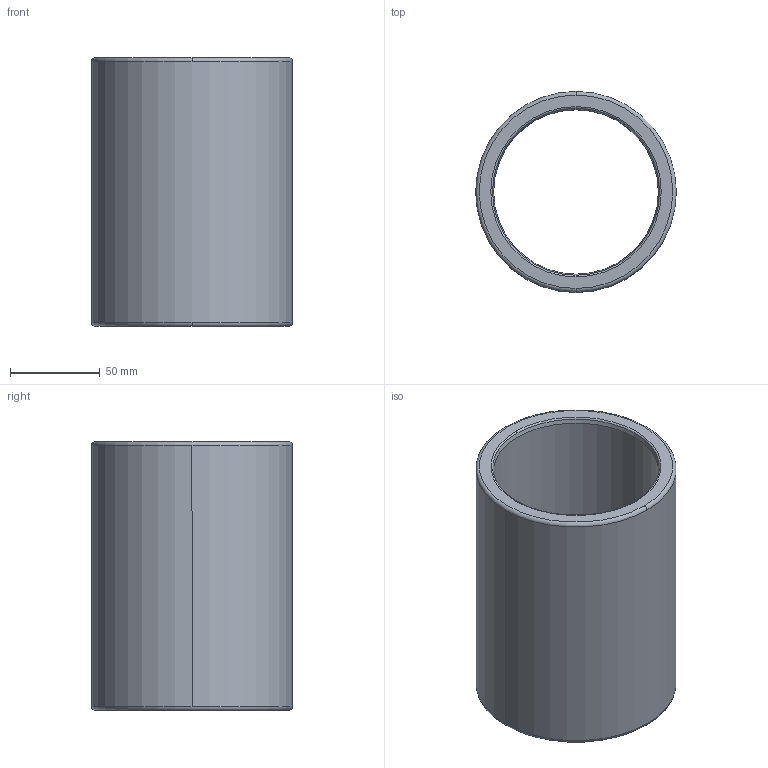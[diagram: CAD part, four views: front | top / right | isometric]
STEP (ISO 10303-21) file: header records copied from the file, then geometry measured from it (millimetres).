
FILE_DESCRIPTION((''),'2;1');
FILE_NAME('B30_080_150.stp','2009-01-12T10:31:04',(''),(''),'Mechanical Desktop 2009','Mechanical Desktop 2009',', , ');
FILE_SCHEMA(('CONFIG_CONTROL_DESIGN'));
Length unit declared in the file: millimetre
Products named in the file (2): Product; blmdl1
Assembly tree (1 placements, depth 2):
  Product
    blmdl1
Bounding box: 111.98 x 111.98 x 150 mm (x, y, z)
Volume: 479703.9 mm3; surface area: 101388.7 mm2
Topology: 1 solids, 1 shells, 18 faces, 48 edges, 32 vertices
Faces by surface type: torus 8, cylinder 4, cone 4, plane 2
Entity records: 705 total; most frequent: DIRECTION 128, CARTESIAN_POINT 100, ORIENTED_EDGE 96, AXIS2_PLACEMENT_3D 60, EDGE_CURVE 48, CIRCLE 40, VERTEX_POINT 32, EDGE_LOOP 20
